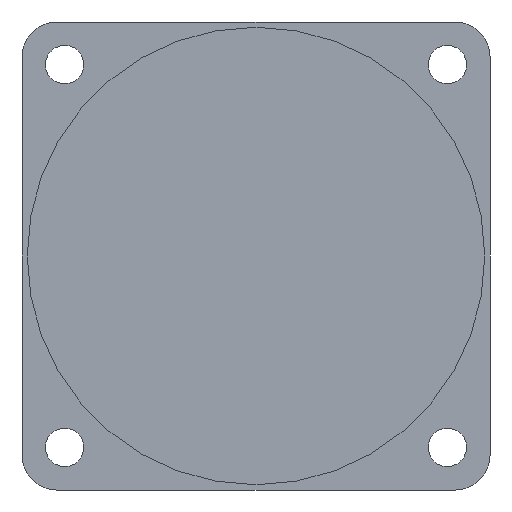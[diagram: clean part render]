
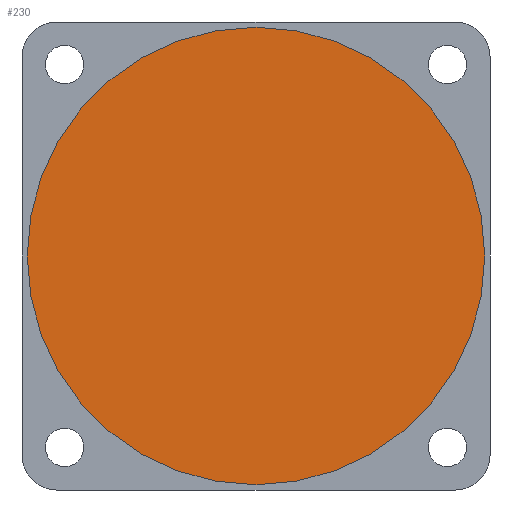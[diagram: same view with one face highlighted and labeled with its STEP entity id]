
A CAD part, front view. The second image highlights one B-rep face of the part: STEP entity #230.
In plain terms, the highlighted planar face has unit normal (0, -1, 0).
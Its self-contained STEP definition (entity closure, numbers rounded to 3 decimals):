
#48 = DIRECTION ( 'NONE',  ( 0., 0., -1. ) ) ;
#65 = DIRECTION ( 'NONE',  ( 0., -1., 0. ) ) ;
#117 = PLANE ( 'NONE',  #148 ) ;
#147 = CARTESIAN_POINT ( 'NONE',  ( 0., -282., 0. ) ) ;
#148 = AXIS2_PLACEMENT_3D ( 'NONE', #147, #65, #48 ) ;
#230 = ADVANCED_FACE ( 'NONE', ( #385 ), #117, .T. ) ;
#291 = ORIENTED_EDGE ( 'NONE', *, *, #527, .T. ) ;
#355 = VERTEX_POINT ( 'NONE', #945 ) ;
#362 = DIRECTION ( 'NONE',  ( 0., 0., -1. ) ) ;
#368 = DIRECTION ( 'NONE',  ( 0., -1., 0. ) ) ;
#370 = CARTESIAN_POINT ( 'NONE',  ( 0., -282., 0. ) ) ;
#383 = AXIS2_PLACEMENT_3D ( 'NONE', #370, #368, #362 ) ;
#385 = FACE_OUTER_BOUND ( 'NONE', #667, .T. ) ;
#424 = DIRECTION ( 'NONE',  ( 0., 0., -1. ) ) ;
#426 = DIRECTION ( 'NONE',  ( 0., -1., 0. ) ) ;
#433 = CARTESIAN_POINT ( 'NONE',  ( 0., -282., 0. ) ) ;
#490 = AXIS2_PLACEMENT_3D ( 'NONE', #433, #426, #424 ) ;
#510 = EDGE_CURVE ( 'NONE', #355, #708, #649, .T. ) ;
#511 = CIRCLE ( 'NONE', #383, 65.5 ) ;
#527 = EDGE_CURVE ( 'NONE', #708, #355, #511, .T. ) ;
#649 = CIRCLE ( 'NONE', #490, 65.5 ) ;
#667 = EDGE_LOOP ( 'NONE', ( #291, #967 ) ) ;
#708 = VERTEX_POINT ( 'NONE', #1083 ) ;
#945 = CARTESIAN_POINT ( 'NONE',  ( 0., -282., -65.5 ) ) ;
#967 = ORIENTED_EDGE ( 'NONE', *, *, #510, .T. ) ;
#1083 = CARTESIAN_POINT ( 'NONE',  ( 0., -282., 65.5 ) ) ;
